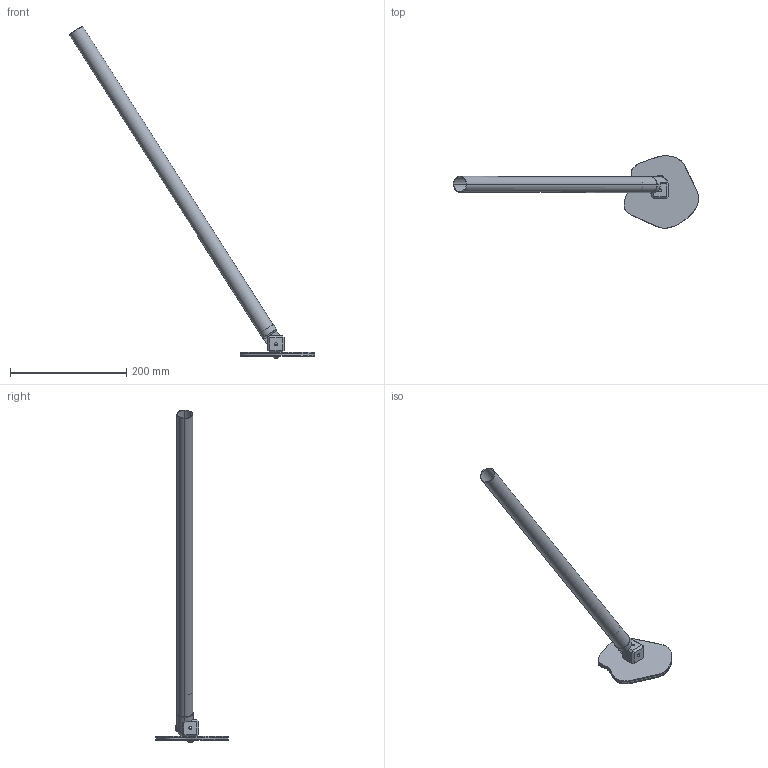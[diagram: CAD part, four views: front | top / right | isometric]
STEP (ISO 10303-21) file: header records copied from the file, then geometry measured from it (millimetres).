
FILE_DESCRIPTION (( 'STEP AP214' ), '1' );
FILE_NAME ('Flat End Threaded to Cube to Perpendicular Surface.STEP', '2013-10-17T19:27:35', ( 'ydmin' ), ( 'Microsoft' ), 'SwSTEP 2.0', 'SolidWorks 2013', '' );
FILE_SCHEMA (( 'AUTOMOTIVE_DESIGN' ));
Length unit declared in the file: inch
Products named in the file (6): DRP-002-0511-00; DRP-002-0544-00; Flat End Threaded to Cube to Perpendicular Surface; 91255A540_91255A540; 6.000 Inch Tube; Perpendicular Surface_With Mounting Holes
Assembly tree (6 placements, depth 2):
  Flat End Threaded to Cube to Perpendicular Surface
    DRP-002-0544-00
    DRP-002-0511-00
    Perpendicular Surface_With Mounting Holes
    6.000 Inch Tube
    91255A540_91255A540  x2
Bounding box: 422.61 x 124.75 x 571.4 mm (x, y, z)
Volume: 168794.9 mm3; surface area: 192651.7 mm2
Topology: 8 solids, 8 shells, 392 faces, 825 edges, 449 vertices
Faces by surface type: cylinder 156, cone 152, plane 71, bspline 6, sphere 5, torus 2
Entity records: 9837 total; most frequent: CARTESIAN_POINT 4139, DIRECTION 1019, ORIENTED_EDGE 1008, EDGE_CURVE 504, AXIS2_PLACEMENT_3D 393, VERTEX_POINT 281, EDGE_LOOP 257, FACE_OUTER_BOUND 237
